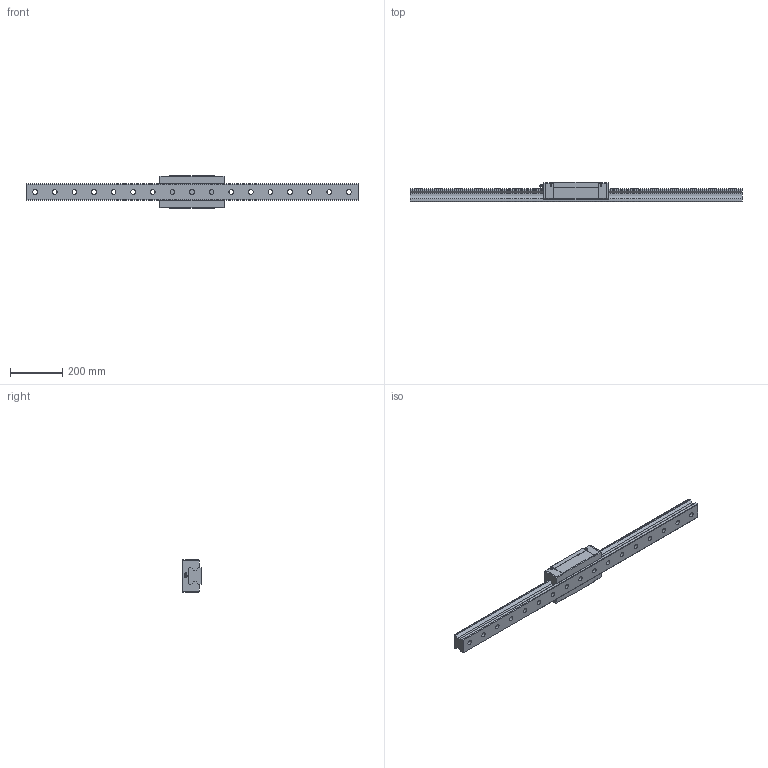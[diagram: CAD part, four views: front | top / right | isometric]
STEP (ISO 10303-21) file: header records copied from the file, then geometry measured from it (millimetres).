
FILE_DESCRIPTION(/* description */ ('STEP AP203'),/* implementation_level */ '2;1');
FILE_NAME(/* name */ 'SRN65R1SS-1270L_G35_0_B-PT18_512-55_0_0_0_1',/* time_stamp */ '2024-05-23T10:56:45+02:00',/* author */ ('License CC BY-ND 4.0'),/* organization */ ('CADENAS'),/* preprocessor_version */ 'ST-DEVELOPER v19.3',/* originating_system */ 'PARTsolutions',/* authorisation */ ' ');
FILE_SCHEMA (('CONFIG_CONTROL_DESIGN'));
Length unit declared in the file: millimetre
Products named in the file (4): SRN65R1SS-1270L_G35_0_B-PT18_512-55_0_0_0_1; SRG65R127035 Track; SRN65RSSB-PT1/81 Slide25-55; B-PT1/8-SRN_grease_nipple_joint
Assembly tree (3 placements, depth 2):
  SRN65R1SS-1270L_G35_0_B-PT18_512-55_0_0_0_1
    SRG65R127035 Track
    SRN65RSSB-PT1/81 Slide25-55
    B-PT1/8-SRN_grease_nipple_joint
Bounding box: 1270 x 75 x 126 mm (x, y, z)
Volume: 4569138.3 mm3; surface area: 486220.7 mm2
Topology: 3 solids, 3 shells, 210 faces, 520 edges, 339 vertices
Faces by surface type: plane 132, cylinder 49, cone 24, torus 3, sphere 2
Full cylindrical faces by diameter (mm): 5.2 x4, 9.6 x1, 13.835 x6, 18 x17, 26 x17
Entity records: 5954 total; most frequent: CARTESIAN_POINT 1105, DIRECTION 956, ORIENTED_EDGE 862, EDGE_CURVE 431, FACE_BOUND 349, EDGE_LOOP 341, AXIS2_PLACEMENT_3D 338, VERTEX_POINT 332
